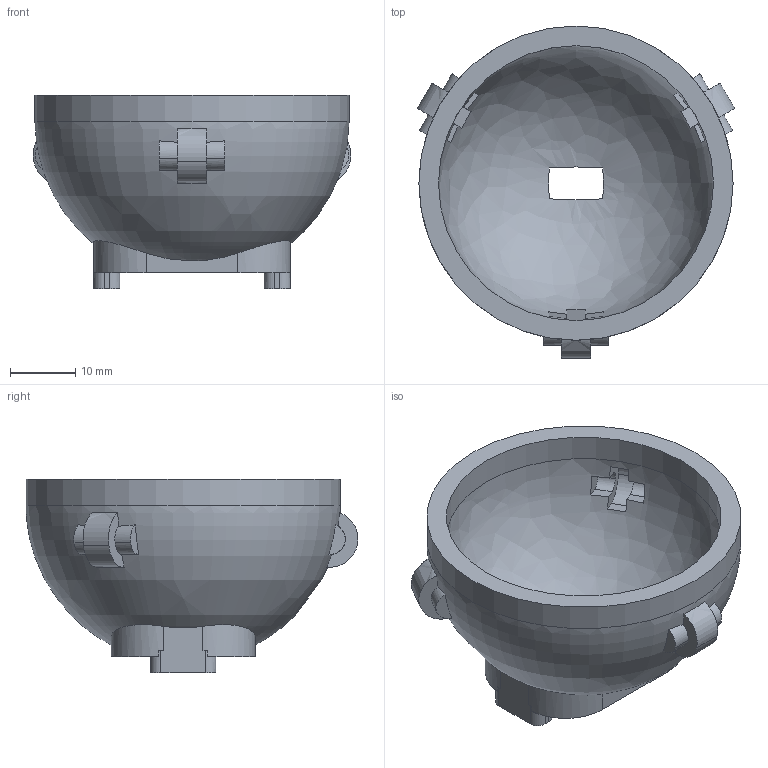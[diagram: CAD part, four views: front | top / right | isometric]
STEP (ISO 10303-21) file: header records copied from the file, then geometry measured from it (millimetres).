
FILE_DESCRIPTION(('Open CASCADE Model'),'2;1');
FILE_NAME('Open CASCADE Shape Model','2026-05-31T19:43:08',('Author'),( 'Open CASCADE'),'Open CASCADE STEP processor 7.6','Open CASCADE 7.6' ,'Unknown');
FILE_SCHEMA(('AP242_MANAGED_MODEL_BASED_3D_ENGINEERING_MIM_LF. {1 0 10303 442 1 1 4 }'));
Length unit declared in the file: millimetre
Products named in the file (1): Open CASCADE STEP translator 7.6 9
Bounding box: 48.5 x 50.7 x 29.6 mm (x, y, z)
Volume: 11712.4 mm3; surface area: 9052.2 mm2
Topology: 1 solids, 1 shells, 140 faces, 392 edges, 260 vertices
Faces by surface type: plane 74, extrusion 36, cylinder 22, bspline 4, revolution 2, cone 2
Full cylindrical faces by diameter (mm): 2.05 x2, 42 x1, 48 x1
Entity records: 19468 total; most frequent: CARTESIAN_POINT 12047, DIRECTION 1248, ORIENTED_EDGE 780, PCURVE 780, DEFINITIONAL_REPRESENTATION 780, VECTOR 658, LINE 622, EDGE_CURVE 390
